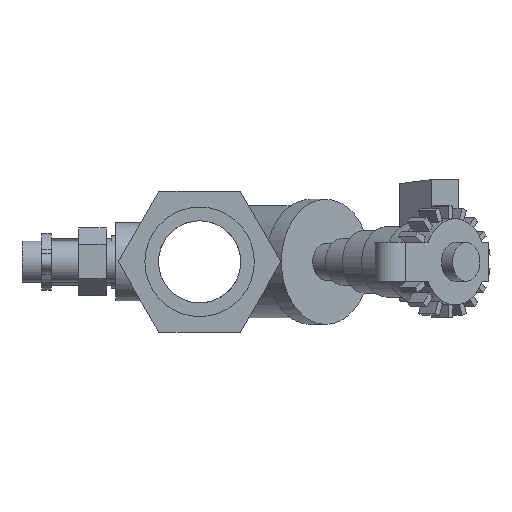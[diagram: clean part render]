
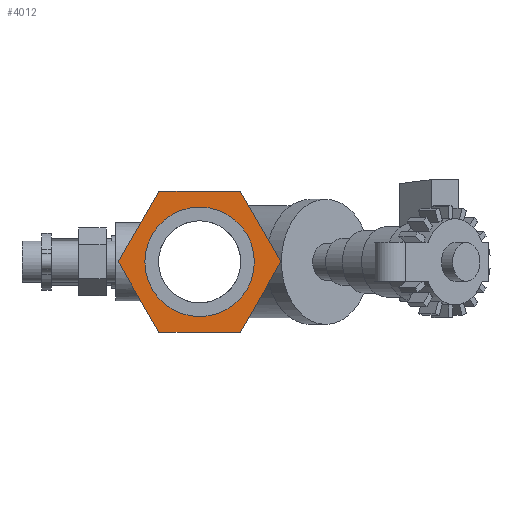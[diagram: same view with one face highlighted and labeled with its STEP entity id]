
A CAD part, left-side view. The second image highlights one B-rep face of the part: STEP entity #4012.
In plain terms, the highlighted planar face has unit normal (-1, 0, 0).
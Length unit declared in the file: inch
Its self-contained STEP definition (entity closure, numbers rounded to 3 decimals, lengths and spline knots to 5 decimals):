
#57=FACE_BOUND('',#462,.T.);
#220=FACE_OUTER_BOUND('',#461,.T.);
#461=EDGE_LOOP('',(#2730,#2731,#2732,#2733,#2734,#2735));
#462=EDGE_LOOP('',(#2736));
#739=CIRCLE('',#4306,0.7);
#930=LINE('',#6567,#1282);
#931=LINE('',#6569,#1283);
#932=LINE('',#6571,#1284);
#933=LINE('',#6573,#1285);
#934=LINE('',#6575,#1286);
#935=LINE('',#6576,#1287);
#1282=VECTOR('',#4851,0.3937);
#1283=VECTOR('',#4852,0.3937);
#1284=VECTOR('',#4853,0.3937);
#1285=VECTOR('',#4854,0.3937);
#1286=VECTOR('',#4855,0.3937);
#1287=VECTOR('',#4856,0.3937);
#1666=VERTEX_POINT('',#6565);
#1667=VERTEX_POINT('',#6566);
#1668=VERTEX_POINT('',#6568);
#1669=VERTEX_POINT('',#6570);
#1670=VERTEX_POINT('',#6572);
#1671=VERTEX_POINT('',#6574);
#1672=VERTEX_POINT('',#6577);
#2079=EDGE_CURVE('',#1666,#1667,#930,.T.);
#2080=EDGE_CURVE('',#1667,#1668,#931,.T.);
#2081=EDGE_CURVE('',#1668,#1669,#932,.T.);
#2082=EDGE_CURVE('',#1669,#1670,#933,.T.);
#2083=EDGE_CURVE('',#1670,#1671,#934,.T.);
#2084=EDGE_CURVE('',#1671,#1666,#935,.T.);
#2085=EDGE_CURVE('',#1672,#1672,#739,.T.);
#2730=ORIENTED_EDGE('',*,*,#2079,.T.);
#2731=ORIENTED_EDGE('',*,*,#2080,.T.);
#2732=ORIENTED_EDGE('',*,*,#2081,.T.);
#2733=ORIENTED_EDGE('',*,*,#2082,.T.);
#2734=ORIENTED_EDGE('',*,*,#2083,.T.);
#2735=ORIENTED_EDGE('',*,*,#2084,.T.);
#2736=ORIENTED_EDGE('',*,*,#2085,.F.);
#3727=PLANE('',#4305);
#4012=ADVANCED_FACE('',(#220,#57),#3727,.T.);
#4305=AXIS2_PLACEMENT_3D('',#6564,#4849,#4850);
#4306=AXIS2_PLACEMENT_3D('',#6578,#4857,#4858);
#4849=DIRECTION('center_axis',(-1.,0.,0.));
#4850=DIRECTION('ref_axis',(0.,0.,1.));
#4851=DIRECTION('',(0.,1.,0.));
#4852=DIRECTION('',(0.,0.5,-0.866));
#4853=DIRECTION('',(0.,-0.5,-0.866));
#4854=DIRECTION('',(0.,-1.,0.));
#4855=DIRECTION('',(0.,-0.5,0.866));
#4856=DIRECTION('',(0.,0.5,0.866));
#4857=DIRECTION('center_axis',(-1.,0.,0.));
#4858=DIRECTION('ref_axis',(0.,1.,0.));
#6564=CARTESIAN_POINT('Origin',(-2.78,0.,0.));
#6565=CARTESIAN_POINT('',(-2.78,-0.51962,0.9));
#6566=CARTESIAN_POINT('',(-2.78,0.51962,0.9));
#6567=CARTESIAN_POINT('',(-2.78,0.51962,0.9));
#6568=CARTESIAN_POINT('',(-2.78,1.03923,0.));
#6569=CARTESIAN_POINT('',(-2.78,1.03923,0.));
#6570=CARTESIAN_POINT('',(-2.78,0.51962,-0.9));
#6571=CARTESIAN_POINT('',(-2.78,0.51962,-0.9));
#6572=CARTESIAN_POINT('',(-2.78,-0.51962,-0.9));
#6573=CARTESIAN_POINT('',(-2.78,-0.51962,-0.9));
#6574=CARTESIAN_POINT('',(-2.78,-1.03923,0.));
#6575=CARTESIAN_POINT('',(-2.78,-1.03923,0.));
#6576=CARTESIAN_POINT('',(-2.78,-0.51962,0.9));
#6577=CARTESIAN_POINT('',(-2.78,-0.7,0.));
#6578=CARTESIAN_POINT('Origin',(-2.78,0.,0.));
